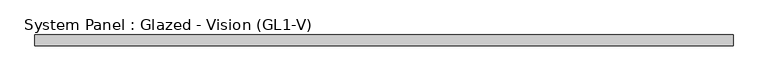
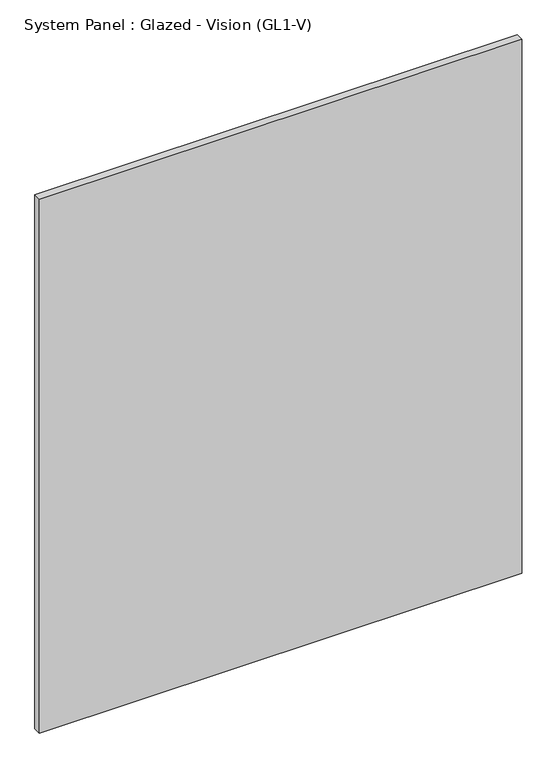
"""IFC4 building model written with IfcOpenShell, lengths in millimetres: plate geometry, System Panel : Glazed - Vision (GL1-V)."""

from ifc_helpers import new_model, si_unit, origin, origin_with_axes, place, context, project, spatial, polyline, outline, extrude, source, transform, mapped, element, save


def system_panel_glazed_vision_gl1_v_fc662d0e(model_context):
    return source(origin(), model_context, "Body", "SweptSolid", [
        extrude(outline(polyline([(813.9193889, -25.4), (-813.9193889, -25.4), (-813.9193889, 0.0), (813.9193889, 0.0), (813.9193889, -25.4)])), origin_with_axes(), (0.0, 0.0, 1.0), 1904.999999),
    ])


if __name__ == "__main__":
    model = new_model("IFC4")
    model_context = context("Model", 3, world=origin())
    ifc_project = project(units=[si_unit("LENGTHUNIT", "METRE", prefix="MILLI")], contexts=[model_context])
    site = spatial("IfcSite", under=ifc_project)
    building = spatial("IfcBuilding", under=site)
    placement = place(None, origin())
    system_panel_glazed_vision_gl1_v_shape = system_panel_glazed_vision_gl1_v_fc662d0e(model_context)
    element("IfcPlate", 1, ObjectType="System Panel : Glazed - Vision (GL1-V)", at=placement, inside=building, context=model_context, shape_type="MappedRepresentation", body=[
        mapped(system_panel_glazed_vision_gl1_v_shape, transform((0.0, 0.0, 0.0), x_axis=(1.0, 0.0, 0.0), y_axis=(0.0, 1.0, 0.0), z_axis=(0.0, 0.0, 1.0))),
    ])
    save(model, "model.ifc")
